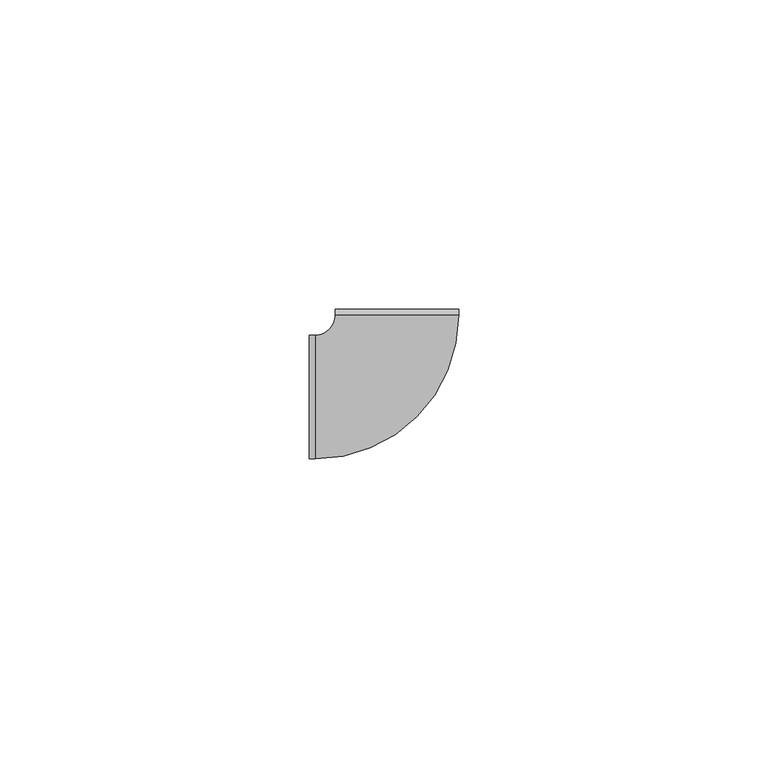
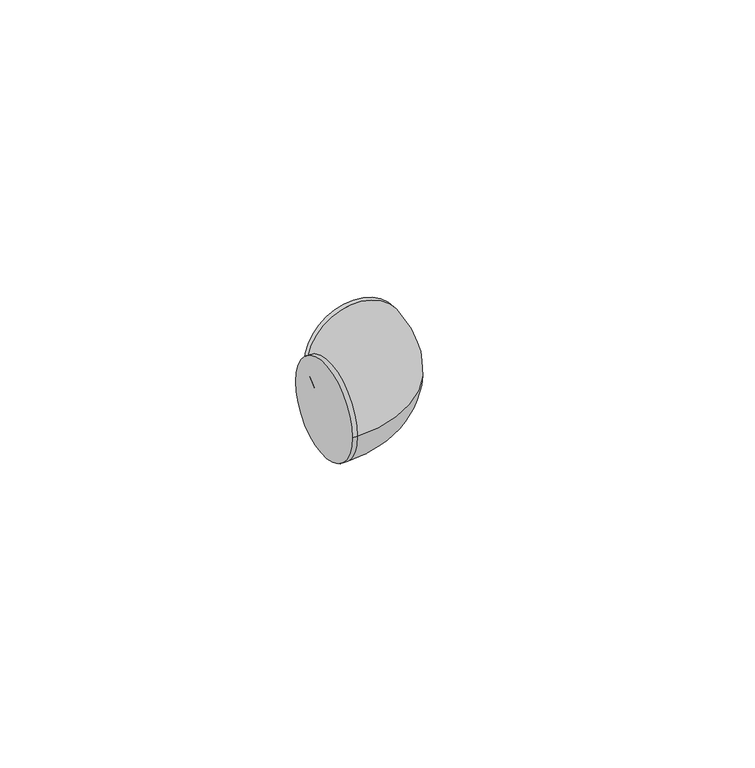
"""IFC4 building model written with IfcOpenShell, lengths in millimetres: cable carrier fitting geometry, ADSK_Поворот_Минимальный размер : Неспецифицируемый."""

from ifc_helpers import new_model, si_unit, point, frame, origin, place, context, project, spatial, circle_curve, ellipse_curve, trimmed, source, transform, mapped, element, save
from ifc_brep_helpers import plane_surface, cylinder_surface, revolved_surface, advanced_brep


def cable_carrier_fitting_148b5de3(model_context):
    return source(origin(), model_context, "Body", "AdvancedBrep", [
        advanced_brep(
        [(-14.175, -10.0, 0.0), (-14.175, 10.0, 0.0), (-13.175, -10.0, 0.0), (-13.175, 10.0, 0.0), (-10.0, 13.175, 0.0), (10.0, 13.175, 0.0), (10.0, 14.175, 0.0), (-10.0, 14.175, 0.0)],
        [
            (0, 1, circle_curve(frame((-14.175, 0.0, 0.0), z_axis=(-1.0, -4.92260399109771e-12, 0.0), x_axis=(-4.92260399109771e-12, 1.0, 0.0)), 10.0)),
            (1, 0, circle_curve(frame((-14.175, 0.0, 0.0), z_axis=(-1.0, -4.92260399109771e-12, 0.0), x_axis=(-4.92260399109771e-12, 1.0, 0.0)), 10.0)),
            (0, 2),
            (2, 3, circle_curve(frame((-13.175, 0.0, 0.0), z_axis=(-1.0, -4.92260399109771e-12, 0.0), x_axis=(-4.92260399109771e-12, 1.0, 0.0)), 10.0)),
            (3, 1),
            (3, 2, circle_curve(frame((-13.175, 0.0, 0.0), z_axis=(-1.0, -4.92260399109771e-12, 0.0), x_axis=(-4.92260399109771e-12, 1.0, 0.0)), 10.0)),
            (4, 3, circle_curve(frame((-13.175, 13.175, 0.0), z_axis=(0.0, 0.0, -1.0), x_axis=(0.0, -1.0, 0.0)), 3.175)),
            (2, 5, circle_curve(frame((-13.175, 13.175, 0.0), z_axis=(0.0, 0.0, 1.0), x_axis=(0.0, -1.0, 0.0)), 23.175)),
            (5, 4, circle_curve(frame((0.0, 13.175, 0.0), z_axis=(0.0, -1.0, 0.0), x_axis=(-1.0, 0.0, 0.0)), 10.0)),
            (4, 5, circle_curve(frame((0.0, 13.175, 0.0), z_axis=(0.0, -1.0, 0.0), x_axis=(-1.0, 0.0, 0.0)), 10.0)),
            (6, 7, circle_curve(frame((0.0, 14.175, 0.0), z_axis=(0.0, 1.0, 0.0), x_axis=(-1.0, 0.0, 0.0)), 10.0)),
            (7, 6, circle_curve(frame((0.0, 14.175, 0.0), z_axis=(0.0, 1.0, 0.0), x_axis=(-1.0, 0.0, 0.0)), 10.0)),
            (5, 6),
            (7, 4),
        ],
        [
            plane_surface(frame((-14.175, 0.0, 0.0), z_axis=(-1.0, -4.92260399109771e-12, 0.0), x_axis=(0.0, 0.0, 1.0))),
            cylinder_surface(frame((-14.175, 0.0, 0.0), z_axis=(-1.0, -4.92260399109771e-12, 0.0), x_axis=(-4.92260399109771e-12, 1.0, 0.0)), 10.0),
            revolved_surface(trimmed(ellipse_curve(frame((-13.175, 0.0, 0.0), z_axis=(-1.0, 0.0, 0.0), x_axis=(0.0, 1.0, 0.0)), 10.0, 10.0), [point((-13.175, -10.0, 0.0))], [point((-13.175, 10.0, 0.0))], True, "CARTESIAN"), (-13.175, 13.175, 0.0), (0.0, 0.0, 1.0)),
            revolved_surface(trimmed(ellipse_curve(frame((-13.175, 0.0, 0.0), z_axis=(-1.0, 0.0, 0.0), x_axis=(0.0, 1.0, 0.0)), 10.0, 10.0), [point((-13.175, 10.0, 0.0))], [point((-13.175, -10.0, 0.0))], True, "CARTESIAN"), (-13.175, 13.175, 0.0), (0.0, 0.0, 1.0)),
            plane_surface(frame((0.0, 14.175, 0.0), z_axis=(0.0, 1.0, 0.0), x_axis=(0.0, 0.0, 1.0))),
            cylinder_surface(frame((0.0, 13.175, 0.0), z_axis=(0.0, -1.0, 0.0), x_axis=(-1.0, 0.0, 0.0)), 10.0),
        ],
        [
            (0, [[1, 2]]),
            (1, [[-1, 3, 4, 5]]),
            (1, [[-2, -5, 6, -3]]),
            (2, [[7, -4, 8, 9]]),
            (3, [[-8, -6, -7, 10]]),
            (4, [[11, 12]]),
            (5, [[-9, 13, -12, 14]]),
            (5, [[-10, -14, -11, -13]]),
        ],
    ),
    ])


if __name__ == "__main__":
    model = new_model("IFC4")
    model_context = context("Model", 3, world=origin())
    ifc_project = project(units=[si_unit("LENGTHUNIT", "METRE", prefix="MILLI")], contexts=[model_context])
    site = spatial("IfcSite", under=ifc_project)
    building = spatial("IfcBuilding", under=site)
    placement = place(None, origin())
    cable_carrier_fitting_shape = cable_carrier_fitting_148b5de3(model_context)
    element("IfcCableCarrierFitting", 1, ObjectType="ADSK_Поворот_Минимальный размер : Неспецифицируемый", at=placement, inside=building, context=model_context, shape_type="MappedRepresentation", body=[
        mapped(cable_carrier_fitting_shape, transform((0.0, 0.0, 0.0), x_axis=(1.0, 0.0, 0.0), y_axis=(0.0, 1.0, 0.0), z_axis=(0.0, 0.0, 1.0))),
    ])
    save(model, "model.ifc")
